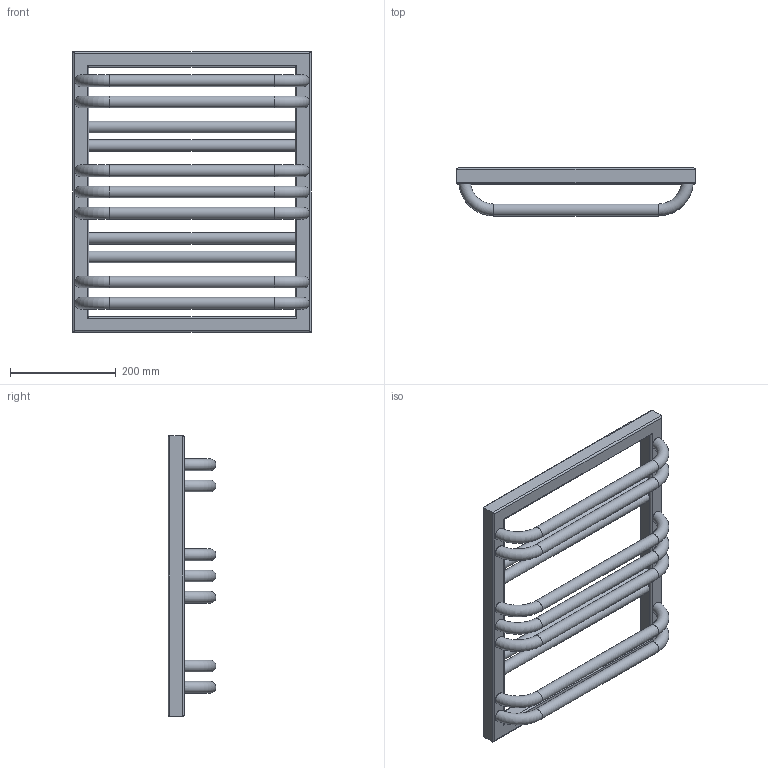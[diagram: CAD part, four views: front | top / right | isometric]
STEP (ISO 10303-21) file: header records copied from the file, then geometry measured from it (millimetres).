
FILE_DESCRIPTION((''),'2;1');
FILE_NAME('Z:\R\G\P\RGPH18 - Grzejnik POC\Work\Inventor\POC 1-6-8 v2.0\Marketing\AutoCad 3D\POC-530-450-1-6-8.stp','2012-07-12T14:39:53',('KurKa'),(''),'Autodesk Inventor 2012','Autodesk Inventor 2012','');
FILE_SCHEMA(('AUTOMOTIVE_DESIGN { 1 0 10303 214 1 1 1 1 }'));
Length unit declared in the file: millimetre
Products named in the file (1): POC-530-450-1-6-8
Bounding box: 450 x 90 x 530 mm (x, y, z)
Volume: 3481727 mm3; surface area: 540485.4 mm2
Topology: 1 solids, 1 shells, 60 faces, 146 edges, 91 vertices
Faces by surface type: cylinder 30, torus 17, plane 13
Full cylindrical faces by diameter (mm): 18.631 x3, 22 x11
Entity records: 2420 total; most frequent: CARTESIAN_POINT 1149, DIRECTION 256, ORIENTED_EDGE 202, EDGE_LOOP 118, AXIS2_PLACEMENT_3D 108, EDGE_CURVE 101, VERTEX_POINT 77, FACE_OUTER_BOUND 60
